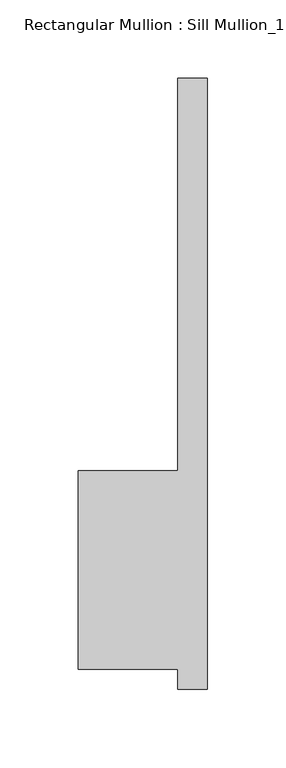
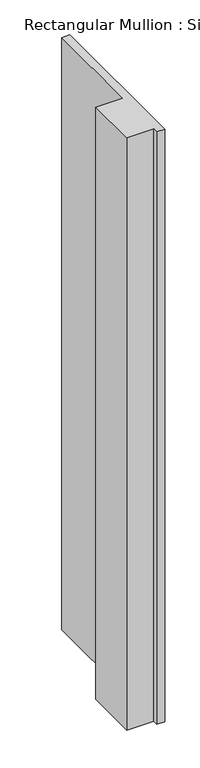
"""IFC4 building model written with IfcOpenShell, lengths in millimetres: member geometry."""

import ifcopenshell
import ifcopenshell.guid

model = None  # the IFC model being written
_history = None  # IfcOwnerHistory: only IFC2X3 demands one
_inside = {}  # id of a spatial element -> (the spatial element, [elements in it])
_under = {}  # id of a project, library or spatial element -> (it, [spatial elements below it])
_declared = {}  # id of a project -> (the project, [libraries it declares])
_typed = {}  # id of a type object -> (the type object, [elements of that type])
_made_of = {}  # id of a material, layer set ... -> (it, [elements and type objects made of it])


def new_model(schema):
    """Start an empty IFC model of exactly this schema.

    Asked for "IFC4X3", IfcOpenShell would pick the latest addendum, in which some entities
    have other attributes; the version numbers below select the first issue.
    IFC2X3 requires an IfcOwnerHistory on every rooted entity: one is made here for all.
    """
    global model, _history
    if schema == "IFC4X3":
        model = ifcopenshell.file(schema_version=(4, 3, 0, 0))
    else:
        model = ifcopenshell.file(schema=schema)
    _inside.clear()
    _under.clear()
    _declared.clear()
    _typed.clear()
    _made_of.clear()
    _history = None
    if model.schema == "IFC2X3":
        org = make("IfcOrganization", Name="unknown")
        user = make(
            "IfcPersonAndOrganization",
            ThePerson=make("IfcPerson", FamilyName="unknown"),
            TheOrganization=org,
        )
        app = make(
            "IfcApplication",
            ApplicationDeveloper=org,
            Version="unknown",
            ApplicationFullName="unknown",
            ApplicationIdentifier="unknown",
        )
        _history = make(
            "IfcOwnerHistory",
            OwningUser=user,
            OwningApplication=app,
            ChangeAction="ADDED",
            CreationDate=0,
        )
    return model


def make(cls, **values):
    """One entity of the class cls with the attributes given. An attribute that is None is left unset."""
    return model.create_entity(
        cls, **{name: value for name, value in values.items() if value is not None}
    )


def rooted(cls, **values):
    """An entity with a GlobalId (a new one), such as an element, a storey or a relation."""
    return make(cls, GlobalId=ifcopenshell.guid.new(), OwnerHistory=_history, **values)


def si_unit(unit_type, name, prefix=None):
    """IfcSIUnit, for example si_unit("LENGTHUNIT", "METRE", prefix="MILLI")."""
    return make("IfcSIUnit", UnitType=unit_type, Prefix=prefix, Name=name)


def assignment(units):
    """IfcUnitAssignment: the units of a project."""
    return None if units is None else make("IfcUnitAssignment", Units=units)


def point(xyz):
    """IfcCartesianPoint."""
    return None if xyz is None else make("IfcCartesianPoint", Coordinates=xyz)


def direction(xyz):
    """IfcDirection."""
    return None if xyz is None else make("IfcDirection", DirectionRatios=xyz)


def frame(location, z_axis=None, x_axis=None):
    """IfcAxis2Placement3D, a coordinate frame: its origin and axes. An axis left out is left unset."""
    return make(
        "IfcAxis2Placement3D",
        Location=point(location),
        Axis=direction(z_axis),
        RefDirection=direction(x_axis),
    )


def origin():
    """The frame at (0, 0, 0) with its axes left unset."""
    return frame((0.0, 0.0, 0.0))


def place(relative_to, where):
    """IfcLocalPlacement: puts the frame where relative to a parent placement (None: the world)."""
    return make(
        "IfcLocalPlacement", PlacementRelTo=relative_to, RelativePlacement=where
    )


def context(
    kind, dimensions, precision=None, world=None, true_north=None, identifier=None
):
    """IfcGeometricRepresentationContext, for example the 3D "Model" context."""
    return make(
        "IfcGeometricRepresentationContext",
        ContextIdentifier=identifier,
        ContextType=kind,
        CoordinateSpaceDimension=dimensions,
        Precision=precision,
        WorldCoordinateSystem=world,
        TrueNorth=true_north,
    )


def project(units=None, contexts=None):
    """IfcProject with its units and contexts."""
    return rooted(
        "IfcProject",
        Name="project",
        RepresentationContexts=contexts,
        UnitsInContext=assignment(units),
    )


def spatial(cls, under=None, at=None, **own):
    """A site, building, storey or space (cls), placed at a placement, below another one or the project."""
    s = rooted(cls, ObjectPlacement=at, **own)
    if under is not None:
        _under.setdefault(under.id(), (under, []))[1].append(s)
    return s


def polyline(points):
    """IfcPolyline through the points."""
    return make("IfcPolyline", Points=[point(p) for p in points])


def outline(outer, holes=None, kind="AREA"):
    """IfcArbitraryClosedProfileDef: a profile drawn as a closed curve; with holes, ...WithVoids."""
    if holes is None:
        return make("IfcArbitraryClosedProfileDef", ProfileType=kind, OuterCurve=outer)
    return make(
        "IfcArbitraryProfileDefWithVoids",
        ProfileType=kind,
        OuterCurve=outer,
        InnerCurves=holes,
    )


def extrude(swept, where, along, depth):
    """IfcExtrudedAreaSolid: the profile swept, set in the frame where, extruded along a direction by depth."""
    return make(
        "IfcExtrudedAreaSolid",
        SweptArea=swept,
        Position=where,
        ExtrudedDirection=direction(along),
        Depth=depth,
    )


def shape(context_of_items, identifier, shape_type, items):
    """IfcShapeRepresentation: the items that make up one representation, for example the "Body"."""
    return make(
        "IfcShapeRepresentation",
        ContextOfItems=context_of_items,
        RepresentationIdentifier=identifier,
        RepresentationType=shape_type,
        Items=items,
    )


def source(mapping_origin, context_of_items, identifier, shape_type, items):
    """IfcRepresentationMap: a shape defined once, which mapped items show again and again."""
    return make(
        "IfcRepresentationMap",
        MappingOrigin=mapping_origin,
        MappedRepresentation=shape(context_of_items, identifier, shape_type, items),
    )


def transform(
    local_origin,
    x_axis=None,
    y_axis=None,
    z_axis=None,
    scale=None,
    scale2=None,
    scale3=None,
    uniform=True,
):
    """IfcCartesianTransformationOperator3D, or its non-uniform kind. x_axis, y_axis, z_axis: its Axis1, 2, 3."""
    if uniform:
        return make(
            "IfcCartesianTransformationOperator3D",
            Axis1=direction(x_axis),
            Axis2=direction(y_axis),
            LocalOrigin=point(local_origin),
            Scale=scale,
            Axis3=direction(z_axis),
        )
    return make(
        "IfcCartesianTransformationOperator3DnonUniform",
        Axis1=direction(x_axis),
        Axis2=direction(y_axis),
        LocalOrigin=point(local_origin),
        Scale=scale,
        Axis3=direction(z_axis),
        Scale2=scale2,
        Scale3=scale3,
    )


def mapped(mapping_source, mapping_target):
    """IfcMappedItem: shows the shape of a source again, moved by a transform."""
    return make(
        "IfcMappedItem", MappingSource=mapping_source, MappingTarget=mapping_target
    )


def made_of(thing, what):
    """Note that an element or type object is made of a material, layer set ...; save() writes the relation."""
    if what is not None:
        _made_of.setdefault(what.id(), (what, []))[1].append(thing)
    return thing


def element(
    cls,
    number,
    at=None,
    inside=None,
    cuts=None,
    type_object=None,
    material=None,
    context=None,
    identifier="Body",
    shape_type=None,
    held_by="IfcProductDefinitionShape",
    body=None,
    shapes=None,
    **own,
):
    """One element of the class cls, such as IfcWall. Its Tag is "e" and its number.

    at: its placement. inside: the storey or other place that contains it. cuts: it is an
    opening in that element (IfcRelVoidsElement). A single representation is given by context,
    identifier, shape_type and body (its items); several are given by shapes. held_by: the class
    of the entity that holds the representations. save() writes the other relations.
    """
    e = rooted(cls, Tag="e%d" % number, ObjectPlacement=at, **own)
    if body is not None:
        shapes = [shape(context, identifier, shape_type, body)]
    if shapes is not None:
        e.Representation = make(held_by, Representations=shapes)
    if inside is not None:
        _inside.setdefault(inside.id(), (inside, []))[1].append(e)
    if cuts is not None:
        rooted(
            "IfcRelVoidsElement", RelatingBuildingElement=cuts, RelatedOpeningElement=e
        )
    if type_object is not None:
        _typed.setdefault(type_object.id(), (type_object, []))[1].append(e)
    return made_of(e, material)


def aggregate(whole, parts):
    """IfcRelAggregates: a whole, such as a stair, and the parts it consists of."""
    return rooted("IfcRelAggregates", RelatingObject=whole, RelatedObjects=parts)


def save(model, path):
    """Write the relations noted so far, then the file.

    IfcRelAggregates (storeys below a building ...), IfcRelContainedInSpatialStructure (elements
    in a storey), IfcRelDefinesByType, IfcRelAssociatesMaterial and IfcRelDeclares: one each for
    every whole, place, type object, material and project.
    """
    for whole, parts in _under.values():
        aggregate(whole, parts)
    for where, things in _inside.values():
        rooted(
            "IfcRelContainedInSpatialStructure",
            RelatedElements=things,
            RelatingStructure=where,
        )
    for kind, things in _typed.values():
        rooted("IfcRelDefinesByType", RelatedObjects=things, RelatingType=kind)
    for what, things in _made_of.values():
        rooted("IfcRelAssociatesMaterial", RelatedObjects=things, RelatingMaterial=what)
    for by, libraries in _declared.values():
        rooted("IfcRelDeclares", RelatingContext=by, RelatedDefinitions=libraries)
    model.write(path)


def member_ec8cff5c(model_context):
    return source(origin(), model_context, "Body", "SweptSolid", [
        extrude(outline(polyline([(-82.55, 50.8), (-19.05, 50.8), (-19.05, 301.625), (0.0, 301.625), (0.0, -88.9), (-19.05, -88.9), (-19.05, -76.2), (-82.55, -76.2), (-82.55, 50.8)])), frame((0.0, 0.0, -1485.9), z_axis=(0.0, 0.0, 1.0), x_axis=(1.0, 0.0, 0.0)), (0.0, 0.0, 1.0), 1485.9),
    ])


if __name__ == "__main__":
    model = new_model("IFC4")
    model_context = context("Model", 3, world=origin())
    ifc_project = project(units=[si_unit("LENGTHUNIT", "METRE", prefix="MILLI")], contexts=[model_context])
    site = spatial("IfcSite", under=ifc_project)
    building = spatial("IfcBuilding", under=site)
    placement = place(None, origin())
    member_shape = member_ec8cff5c(model_context)
    element("IfcMember", 1, ObjectType="Rectangular Mullion : Sill Mullion_15\" thick wall", at=placement, inside=building, context=model_context, shape_type="MappedRepresentation", body=[
        mapped(member_shape, transform((0.0, 0.0, 0.0), x_axis=(1.0, 0.0, 0.0), y_axis=(0.0, 1.0, 0.0), z_axis=(0.0, 0.0, 1.0))),
    ])
    save(model, "model.ifc")
